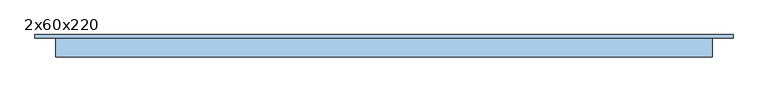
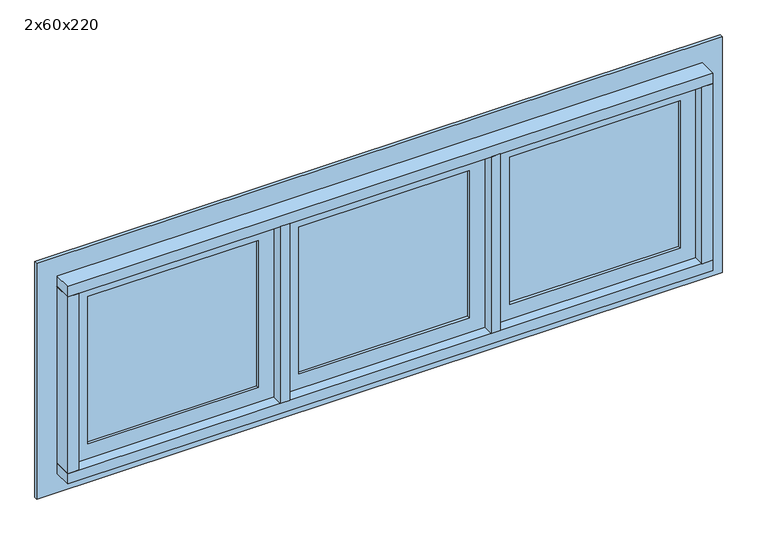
"""IFC4 building model written with IfcOpenShell, lengths in millimetres: window geometry, JANELA COM ESQUADRIA MAXIM-AR - 3 FOLHAS : 2x60x220."""

import ifcopenshell
import ifcopenshell.guid

model = None  # the IFC model being written
_history = None  # IfcOwnerHistory: only IFC2X3 demands one
_inside = {}  # id of a spatial element -> (the spatial element, [elements in it])
_under = {}  # id of a project, library or spatial element -> (it, [spatial elements below it])
_declared = {}  # id of a project -> (the project, [libraries it declares])
_typed = {}  # id of a type object -> (the type object, [elements of that type])
_made_of = {}  # id of a material, layer set ... -> (it, [elements and type objects made of it])


def new_model(schema):
    """Start an empty IFC model of exactly this schema.

    Asked for "IFC4X3", IfcOpenShell would pick the latest addendum, in which some entities
    have other attributes; the version numbers below select the first issue.
    IFC2X3 requires an IfcOwnerHistory on every rooted entity: one is made here for all.
    """
    global model, _history
    if schema == "IFC4X3":
        model = ifcopenshell.file(schema_version=(4, 3, 0, 0))
    else:
        model = ifcopenshell.file(schema=schema)
    _inside.clear()
    _under.clear()
    _declared.clear()
    _typed.clear()
    _made_of.clear()
    _history = None
    if model.schema == "IFC2X3":
        org = make("IfcOrganization", Name="unknown")
        user = make(
            "IfcPersonAndOrganization",
            ThePerson=make("IfcPerson", FamilyName="unknown"),
            TheOrganization=org,
        )
        app = make(
            "IfcApplication",
            ApplicationDeveloper=org,
            Version="unknown",
            ApplicationFullName="unknown",
            ApplicationIdentifier="unknown",
        )
        _history = make(
            "IfcOwnerHistory",
            OwningUser=user,
            OwningApplication=app,
            ChangeAction="ADDED",
            CreationDate=0,
        )
    return model


def make(cls, **values):
    """One entity of the class cls with the attributes given. An attribute that is None is left unset."""
    return model.create_entity(
        cls, **{name: value for name, value in values.items() if value is not None}
    )


def rooted(cls, **values):
    """An entity with a GlobalId (a new one), such as an element, a storey or a relation."""
    return make(cls, GlobalId=ifcopenshell.guid.new(), OwnerHistory=_history, **values)


def si_unit(unit_type, name, prefix=None):
    """IfcSIUnit, for example si_unit("LENGTHUNIT", "METRE", prefix="MILLI")."""
    return make("IfcSIUnit", UnitType=unit_type, Prefix=prefix, Name=name)


def assignment(units):
    """IfcUnitAssignment: the units of a project."""
    return None if units is None else make("IfcUnitAssignment", Units=units)


def point(xyz):
    """IfcCartesianPoint."""
    return None if xyz is None else make("IfcCartesianPoint", Coordinates=xyz)


def direction(xyz):
    """IfcDirection."""
    return None if xyz is None else make("IfcDirection", DirectionRatios=xyz)


def frame(location, z_axis=None, x_axis=None):
    """IfcAxis2Placement3D, a coordinate frame: its origin and axes. An axis left out is left unset."""
    return make(
        "IfcAxis2Placement3D",
        Location=point(location),
        Axis=direction(z_axis),
        RefDirection=direction(x_axis),
    )


def origin():
    """The frame at (0, 0, 0) with its axes left unset."""
    return frame((0.0, 0.0, 0.0))


def place(relative_to, where):
    """IfcLocalPlacement: puts the frame where relative to a parent placement (None: the world)."""
    return make(
        "IfcLocalPlacement", PlacementRelTo=relative_to, RelativePlacement=where
    )


def context(
    kind, dimensions, precision=None, world=None, true_north=None, identifier=None
):
    """IfcGeometricRepresentationContext, for example the 3D "Model" context."""
    return make(
        "IfcGeometricRepresentationContext",
        ContextIdentifier=identifier,
        ContextType=kind,
        CoordinateSpaceDimension=dimensions,
        Precision=precision,
        WorldCoordinateSystem=world,
        TrueNorth=true_north,
    )


def project(units=None, contexts=None):
    """IfcProject with its units and contexts."""
    return rooted(
        "IfcProject",
        Name="project",
        RepresentationContexts=contexts,
        UnitsInContext=assignment(units),
    )


def spatial(cls, under=None, at=None, **own):
    """A site, building, storey or space (cls), placed at a placement, below another one or the project."""
    s = rooted(cls, ObjectPlacement=at, **own)
    if under is not None:
        _under.setdefault(under.id(), (under, []))[1].append(s)
    return s


def polyline(points):
    """IfcPolyline through the points."""
    return make("IfcPolyline", Points=[point(p) for p in points])


def outline(outer, holes=None, kind="AREA"):
    """IfcArbitraryClosedProfileDef: a profile drawn as a closed curve; with holes, ...WithVoids."""
    if holes is None:
        return make("IfcArbitraryClosedProfileDef", ProfileType=kind, OuterCurve=outer)
    return make(
        "IfcArbitraryProfileDefWithVoids",
        ProfileType=kind,
        OuterCurve=outer,
        InnerCurves=holes,
    )


def extrude(swept, where, along, depth):
    """IfcExtrudedAreaSolid: the profile swept, set in the frame where, extruded along a direction by depth."""
    return make(
        "IfcExtrudedAreaSolid",
        SweptArea=swept,
        Position=where,
        ExtrudedDirection=direction(along),
        Depth=depth,
    )


def shape(context_of_items, identifier, shape_type, items):
    """IfcShapeRepresentation: the items that make up one representation, for example the "Body"."""
    return make(
        "IfcShapeRepresentation",
        ContextOfItems=context_of_items,
        RepresentationIdentifier=identifier,
        RepresentationType=shape_type,
        Items=items,
    )


def source(mapping_origin, context_of_items, identifier, shape_type, items):
    """IfcRepresentationMap: a shape defined once, which mapped items show again and again."""
    return make(
        "IfcRepresentationMap",
        MappingOrigin=mapping_origin,
        MappedRepresentation=shape(context_of_items, identifier, shape_type, items),
    )


def transform(
    local_origin,
    x_axis=None,
    y_axis=None,
    z_axis=None,
    scale=None,
    scale2=None,
    scale3=None,
    uniform=True,
):
    """IfcCartesianTransformationOperator3D, or its non-uniform kind. x_axis, y_axis, z_axis: its Axis1, 2, 3."""
    if uniform:
        return make(
            "IfcCartesianTransformationOperator3D",
            Axis1=direction(x_axis),
            Axis2=direction(y_axis),
            LocalOrigin=point(local_origin),
            Scale=scale,
            Axis3=direction(z_axis),
        )
    return make(
        "IfcCartesianTransformationOperator3DnonUniform",
        Axis1=direction(x_axis),
        Axis2=direction(y_axis),
        LocalOrigin=point(local_origin),
        Scale=scale,
        Axis3=direction(z_axis),
        Scale2=scale2,
        Scale3=scale3,
    )


def mapped(mapping_source, mapping_target):
    """IfcMappedItem: shows the shape of a source again, moved by a transform."""
    return make(
        "IfcMappedItem", MappingSource=mapping_source, MappingTarget=mapping_target
    )


def made_of(thing, what):
    """Note that an element or type object is made of a material, layer set ...; save() writes the relation."""
    if what is not None:
        _made_of.setdefault(what.id(), (what, []))[1].append(thing)
    return thing


def element(
    cls,
    number,
    at=None,
    inside=None,
    cuts=None,
    type_object=None,
    material=None,
    context=None,
    identifier="Body",
    shape_type=None,
    held_by="IfcProductDefinitionShape",
    body=None,
    shapes=None,
    **own,
):
    """One element of the class cls, such as IfcWall. Its Tag is "e" and its number.

    at: its placement. inside: the storey or other place that contains it. cuts: it is an
    opening in that element (IfcRelVoidsElement). A single representation is given by context,
    identifier, shape_type and body (its items); several are given by shapes. held_by: the class
    of the entity that holds the representations. save() writes the other relations.
    """
    e = rooted(cls, Tag="e%d" % number, ObjectPlacement=at, **own)
    if body is not None:
        shapes = [shape(context, identifier, shape_type, body)]
    if shapes is not None:
        e.Representation = make(held_by, Representations=shapes)
    if inside is not None:
        _inside.setdefault(inside.id(), (inside, []))[1].append(e)
    if cuts is not None:
        rooted(
            "IfcRelVoidsElement", RelatingBuildingElement=cuts, RelatedOpeningElement=e
        )
    if type_object is not None:
        _typed.setdefault(type_object.id(), (type_object, []))[1].append(e)
    return made_of(e, material)


def aggregate(whole, parts):
    """IfcRelAggregates: a whole, such as a stair, and the parts it consists of."""
    return rooted("IfcRelAggregates", RelatingObject=whole, RelatedObjects=parts)


def save(model, path):
    """Write the relations noted so far, then the file.

    IfcRelAggregates (storeys below a building ...), IfcRelContainedInSpatialStructure (elements
    in a storey), IfcRelDefinesByType, IfcRelAssociatesMaterial and IfcRelDeclares: one each for
    every whole, place, type object, material and project.
    """
    for whole, parts in _under.values():
        aggregate(whole, parts)
    for where, things in _inside.values():
        rooted(
            "IfcRelContainedInSpatialStructure",
            RelatedElements=things,
            RelatingStructure=where,
        )
    for kind, things in _typed.values():
        rooted("IfcRelDefinesByType", RelatedObjects=things, RelatingType=kind)
    for what, things in _made_of.values():
        rooted("IfcRelAssociatesMaterial", RelatedObjects=things, RelatingMaterial=what)
    for by, libraries in _declared.values():
        rooted("IfcRelDeclares", RelatingContext=by, RelatedDefinitions=libraries)
    model.write(path)


def window_2x60x220_105bf606(model_context):
    return source(origin(), model_context, "Body", "SweptSolid", [
        extrude(outline(polyline([(-143.9297824, 30.3758395), (-143.9297824, 36.3758395), (402.7368843, 36.3758395), (402.7368843, 30.3758395), (-143.9297824, 30.3758395)])), frame((0.0, 0.0, 1550.0), z_axis=(0.0, 0.0, 1.0), x_axis=(1.0, 0.0, 0.0)), (0.0, 0.0, 1.0), 500.0),
        extrude(outline(polyline([(2100.0, -193.9297824), (1500.0, -193.9297824), (1500.0, 452.7368843), (2100.0, 452.7368843), (2100.0, -193.9297824)]), holes=[polyline([(2050.0, -143.9297824), (2050.0, 402.7368843), (1550.0, 402.7368843), (1550.0, -143.9297824), (2050.0, -143.9297824)])]), frame((0.0, 20.8758395, 0.0), z_axis=(0.0, 1.0, 0.0), x_axis=(0.0, 0.0, 1.0)), (0.0, 0.0, 1.0), 25.0),
        extrude(outline(polyline([(532.7368843, 30.3758395), (532.7368843, 36.3758395), (1079.4035509, 36.3758395), (1079.4035509, 30.3758395), (532.7368843, 30.3758395)])), frame((0.0, 0.0, 1550.0), z_axis=(0.0, 0.0, 1.0), x_axis=(1.0, 0.0, 0.0)), (0.0, 0.0, 1.0), 500.0),
        extrude(outline(polyline([(2100.0, 482.7368843), (1500.0, 482.7368843), (1500.0, 1129.4035509), (2100.0, 1129.4035509), (2100.0, 482.7368843)]), holes=[polyline([(2050.0, 532.7368843), (2050.0, 1079.4035509), (1550.0, 1079.4035509), (1550.0, 532.7368843), (2050.0, 532.7368843)])]), frame((0.0, 20.8758395, 0.0), z_axis=(0.0, 1.0, 0.0), x_axis=(0.0, 0.0, 1.0)), (0.0, 0.0, 1.0), 25.0),
        extrude(outline(polyline([(-820.5964491, 30.3758395), (-820.5964491, 36.3758395), (-273.9297824, 36.3758395), (-273.9297824, 30.3758395), (-820.5964491, 30.3758395)])), frame((0.0, 0.0, 1550.0), z_axis=(0.0, 0.0, 1.0), x_axis=(1.0, 0.0, 0.0)), (0.0, 0.0, 1.0), 500.0),
        extrude(outline(polyline([(2100.0, -870.5964491), (1500.0, -870.5964491), (1500.0, -223.9297824), (2100.0, -223.9297824), (2100.0, -870.5964491)]), holes=[polyline([(2050.0, -820.5964491), (2050.0, -273.9297824), (1550.0, -273.9297824), (1550.0, -820.5964491), (2050.0, -820.5964491)])]), frame((0.0, 20.8758395, 0.0), z_axis=(0.0, 1.0, 0.0), x_axis=(0.0, 0.0, 1.0)), (0.0, 0.0, 1.0), 25.0),
        extrude(outline(polyline([(1400.0, -970.5964491), (1400.0, 1229.4035509), (2200.0, 1229.4035509), (2200.0, -970.5964491), (1400.0, -970.5964491)]), holes=[polyline([(2100.0, -870.5964491), (2100.0, 1129.4035509), (1500.0, 1129.4035509), (1500.0, -870.5964491), (2100.0, -870.5964491)])]), frame((0.0, 45.8758395, 0.0), z_axis=(0.0, 1.0, 0.0), x_axis=(0.0, 0.0, 1.0)), (0.0, 0.0, 1.0), 10.0),
        extrude(outline(polyline([(452.7368843, 45.8758395), (482.7368843, 45.8758395), (482.7368843, -14.1241605), (452.7368843, -14.1241605), (452.7368843, 45.8758395)])), frame((0.0, 0.0, 1500.0), z_axis=(0.0, 0.0, 1.0), x_axis=(1.0, 0.0, 0.0)), (0.0, 0.0, 1.0), 600.0),
        extrude(outline(polyline([(-223.9297824, 45.8758395), (-193.9297824, 45.8758395), (-193.9297824, -14.1241605), (-223.9297824, -14.1241605), (-223.9297824, 45.8758395)])), frame((0.0, 0.0, 1500.0), z_axis=(0.0, 0.0, 1.0), x_axis=(1.0, 0.0, 0.0)), (0.0, 0.0, 1.0), 600.0),
        extrude(outline(polyline([(-905.5964491, -14.1241605), (-905.5964491, 45.8758395), (-870.5964491, 45.8758395), (-870.5964491, -14.1241605), (-905.5964491, -14.1241605)])), frame((0.0, 0.0, 1500.0), z_axis=(0.0, 0.0, 1.0), x_axis=(1.0, 0.0, 0.0)), (0.0, 0.0, 1.0), 600.0),
        extrude(outline(polyline([(1129.4035509, -14.1241605), (1129.4035509, 45.8758395), (1164.4035509, 45.8758395), (1164.4035509, -14.1241605), (1129.4035509, -14.1241605)])), frame((0.0, 0.0, 1500.0), z_axis=(0.0, 0.0, 1.0), x_axis=(1.0, 0.0, 0.0)), (0.0, 0.0, 1.0), 600.0),
        extrude(outline(polyline([(-905.5964491, -14.1241605), (-905.5964491, 45.8758395), (1164.4035509, 45.8758395), (1164.4035509, -14.1241605), (-905.5964491, -14.1241605)])), frame((0.0, 0.0, 1465.0), z_axis=(0.0, 0.0, 1.0), x_axis=(1.0, 0.0, 0.0)), (0.0, 0.0, 1.0), 35.0),
        extrude(outline(polyline([(-905.5964491, -14.1241605), (-905.5964491, 45.8758395), (1164.4035509, 45.8758395), (1164.4035509, -14.1241605), (-905.5964491, -14.1241605)])), frame((0.0, 0.0, 2100.0), z_axis=(0.0, 0.0, 1.0), x_axis=(1.0, 0.0, 0.0)), (0.0, 0.0, 1.0), 35.0),
    ])


if __name__ == "__main__":
    model = new_model("IFC4")
    model_context = context("Model", 3, world=origin())
    ifc_project = project(units=[si_unit("LENGTHUNIT", "METRE", prefix="MILLI")], contexts=[model_context])
    site = spatial("IfcSite", under=ifc_project)
    building = spatial("IfcBuilding", under=site)
    placement = place(None, origin())
    window_2x60x220_shape = window_2x60x220_105bf606(model_context)
    element("IfcWindow", 1, ObjectType="JANELA COM ESQUADRIA MAXIM-AR - 3 FOLHAS : 2x60x220", at=placement, inside=building, context=model_context, shape_type="MappedRepresentation", body=[
        mapped(window_2x60x220_shape, transform((0.0, 0.0, 0.0), x_axis=(1.0, 0.0, 0.0), y_axis=(0.0, 1.0, 0.0), z_axis=(0.0, 0.0, 1.0))),
    ])
    save(model, "model.ifc")
